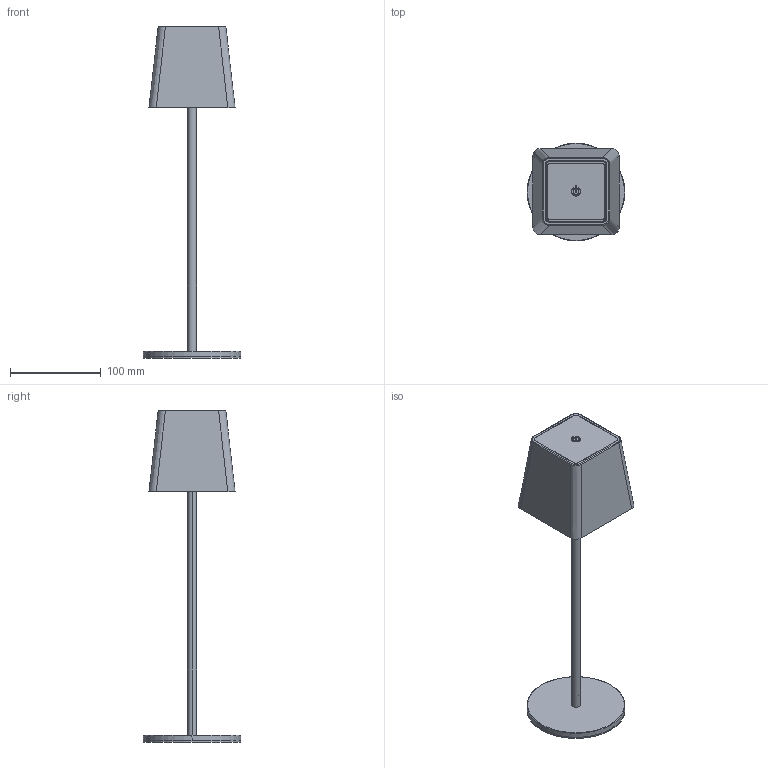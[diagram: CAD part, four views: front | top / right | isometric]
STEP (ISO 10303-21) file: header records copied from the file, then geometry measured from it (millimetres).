
FILE_DESCRIPTION(('CATIA V5 STEP Exchange','CAx-IF Rec.Pracs.--- Model Styling and Organization---1.4--- 2014-01-23','CAx-IF Rec.Pracs.---3D Tessellated Data Validation Properties---0.5---2014-09-14'),'2;1');
FILE_NAME('E:\GaaPro\luo\5.待开发项目\3.台灯\04.智能台灯\GT-008\GT-008_.stp','2022-07-26T07:01:13+00:00',('none'),('none'),'CATIA Version 5-6 Release 2018','CATIA V5 STEP AP242','none');
FILE_SCHEMA(('AP242_MANAGED_MODEL_BASED_3D_ENGINEERING_MIM_LF {1 0 10303 442 1 1 4}'));
Products named in the file (15): GT-008; 冬瓜白亚克力; 大镀锌板; 透明单面砂 亚克力; 10X280灯杆; 底座.1; 铝基板; 尼龙垫片; M8牙管; M3; USB堵头; 小镀锌板; 电池; Admi214C8D42l8jb; M3X5小圆头
Assembly tree (18 placements, depth 2):
  GT-008
    冬瓜白亚克力
    大镀锌板
    透明单面砂 亚克力
    10X280灯杆
    底座.1
    铝基板
    尼龙垫片
    M8牙管
    M3  x5
    USB堵头
    小镀锌板
    电池
    Admi214C8D42l8jb
    M3X5小圆头
Bounding box: 108 x 108 x 366.3 mm (x, y, z)
Volume: 248012.3 mm3; surface area: 184739.9 mm2
Topology: 67 solids, 67 shells, 1511 faces, 3960 edges, 2613 vertices
Faces by surface type: plane 609, cylinder 515, cone 176, bspline 138, torus 32, extrusion 24, sphere 17
Entity records: 145648 total; most frequent: CARTESIAN_POINT 118457, ORIENTED_EDGE 6348, DIRECTION 3870, EDGE_CURVE 3174, VERTEX_POINT 2093, VECTOR 1638, LINE 1614, AXIS2_PLACEMENT_3D 1514
